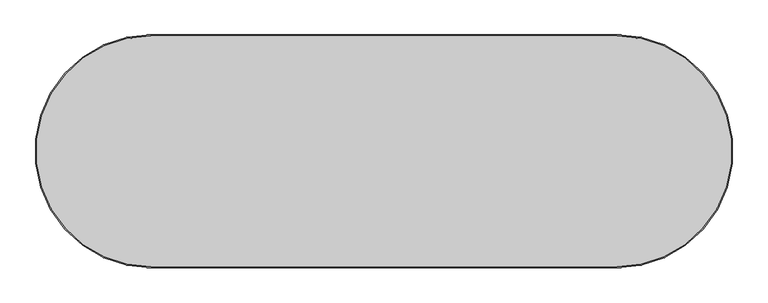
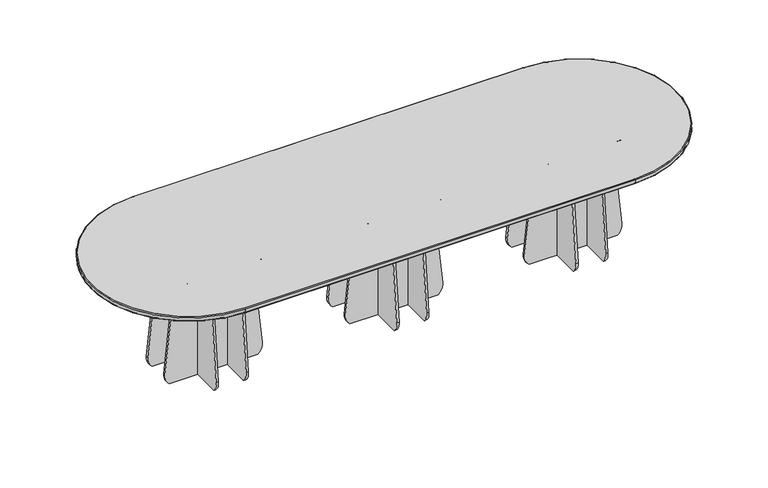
"""IFC4 building model written with IfcOpenShell, lengths in millimetres: furniture geometry, Lundbergs Möbler - Funghi Ovale - Table - Oval - 360x120 - H73 : Lundbergs Möbler - Funghi Ovale - Table - Oval - 360x120 - H73."""

from ifc_helpers import new_model, si_unit, point, frame, frame_2d, origin, place, context, project, spatial, polyline, circle_curve, ellipse_curve, trimmed, segment, composite_curve, outline, extrude, source, transform, mapped, element, save
from ifc_brep_helpers import plane_surface, cylinder_surface, revolved_surface, advanced_brep


def furniture_582ebe88(model_context):
    return source(origin(), model_context, "Body", "SolidModel", [
        advanced_brep(
        [(1200.0000092, 600.0000046, 705.000378), (1200.0000092, -600.0000046, 705.000378), (1200.0000092, -595.0000046, 700.000378), (1200.0000092, 595.0000046, 700.000378), (1200.0000092, 600.0000046, 725.0), (1200.0000092, -600.0000046, 725.0), (-1200.0000092, 595.0000046, 700.000378), (-1200.0000092, 600.0000046, 705.000378), (-1200.0000092, -595.0000046, 700.000378), (-1200.0000092, -600.0000046, 705.000378), (-1200.0000092, 600.0000046, 725.0), (-1200.0000092, -600.0000046, 725.0), (1200.0000092, 595.0000046, 730.0), (-1200.0000092, 595.0000046, 730.0), (-1200.0000092, -595.0000046, 730.0), (1200.0000092, -595.0000046, 730.0)],
        [
            (0, 1, circle_curve(frame((1200.0000092, 0.0, 705.000378), z_axis=(0.0, 0.0, -1.0), x_axis=(0.0, -1.0, 0.0)), 600.0000046)),
            (1, 2, circle_curve(frame((1200.0000092, -595.0000046, 705.000378), z_axis=(1.0, 0.0, 0.0), x_axis=(0.0, 1.0, 0.0)), 5.0)),
            (2, 3, circle_curve(frame((1200.0000092, 0.0, 700.000378), z_axis=(0.0, 0.0, 1.0), x_axis=(0.0, -1.0, 0.0)), 595.0000046)),
            (3, 0, circle_curve(frame((1200.0000092, 595.0000046, 705.000378), z_axis=(1.0, 0.0, 0.0), x_axis=(0.0, -1.0, 0.0)), 5.0)),
            (0, 4),
            (4, 5, circle_curve(frame((1200.0000092, 0.0, 725.0), z_axis=(0.0, 0.0, -1.0), x_axis=(0.0, -1.0, 0.0)), 600.0000046)),
            (5, 1),
            (3, 6),
            (6, 7, circle_curve(frame((-1200.0000092, 595.0000046, 705.000378), z_axis=(1.0, 0.0, 0.0), x_axis=(0.0, -1.0, 0.0)), 5.0)),
            (7, 0),
            (6, 8, circle_curve(frame((-1200.0000092, 0.0, 700.000378), z_axis=(0.0, 0.0, 1.0), x_axis=(0.0, 1.0, 0.0)), 595.0000046)),
            (8, 9, circle_curve(frame((-1200.0000092, -595.0000046, 705.000378), z_axis=(-1.0, 0.0, 0.0), x_axis=(0.0, 1.0, 0.0)), 5.0)),
            (9, 7, circle_curve(frame((-1200.0000092, 0.0, 705.000378), z_axis=(0.0, 0.0, -1.0), x_axis=(0.0, 1.0, 0.0)), 600.0000046)),
            (10, 7),
            (9, 11),
            (11, 10, circle_curve(frame((-1200.0000092, 0.0, 725.0), z_axis=(0.0, 0.0, -1.0), x_axis=(0.0, 1.0, 0.0)), 600.0000046)),
            (12, 13),
            (13, 14, circle_curve(frame((-1200.0000092, 0.0, 730.0), z_axis=(0.0, 0.0, 1.0), x_axis=(0.0, 1.0, 0.0)), 595.0000046)),
            (14, 15),
            (15, 12, circle_curve(frame((1200.0000092, 0.0, 730.0), z_axis=(0.0, 0.0, 1.0), x_axis=(0.0, -1.0, 0.0)), 595.0000046)),
            (2, 8),
            (1, 9),
            (10, 4),
            (5, 11),
            (4, 12, circle_curve(frame((1200.0000092, 595.0000046, 725.0), z_axis=(1.0, 0.0, 0.0), x_axis=(0.0, -1.0, 0.0)), 5.0)),
            (15, 5, circle_curve(frame((1200.0000092, -595.0000046, 725.0), z_axis=(1.0, 0.0, 0.0), x_axis=(0.0, 1.0, 0.0)), 5.0)),
            (10, 13, circle_curve(frame((-1200.0000092, 595.0000046, 725.0), z_axis=(1.0, 0.0, 0.0), x_axis=(0.0, -1.0, 0.0)), 5.0)),
            (11, 14, circle_curve(frame((-1200.0000092, -595.0000046, 725.0), z_axis=(-1.0, 0.0, 0.0), x_axis=(0.0, 1.0, 0.0)), 5.0)),
        ],
        [
            revolved_surface(trimmed(ellipse_curve(frame((1200.0000092, -595.0000046, 705.000378), z_axis=(-1.0, 0.0, 0.0), x_axis=(0.0, 1.0, 0.0)), 5.0, 5.0), [point((1200.0000092, -595.0000046, 700.000378))], [point((1200.0000092, -600.0000046, 705.000378))], True, "CARTESIAN"), (1200.0000092, 0.0, 0.0), (0.0, 0.0, 1.0)),
            cylinder_surface(frame((1200.0000092, 0.0, 0.0), z_axis=(0.0, 0.0, 1.0), x_axis=(0.0, -1.0, 0.0)), 600.0000046),
            cylinder_surface(frame((1200.0000092, 595.0000046, 705.000378), z_axis=(1.0, 0.0, 0.0), x_axis=(0.0, -1.0, 0.0)), 5.0),
            revolved_surface(trimmed(ellipse_curve(frame((-1200.0000092, 595.0000046, 705.000378), z_axis=(1.0, 0.0, 0.0), x_axis=(0.0, -1.0, 0.0)), 5.0, 5.0), [point((-1200.0000092, 595.0000046, 700.000378))], [point((-1200.0000092, 600.0000046, 705.000378))], True, "CARTESIAN"), (-1200.0000092, 0.0, 0.0), (0.0, 0.0, 1.0)),
            cylinder_surface(frame((-1200.0000092, 0.0, 0.0), z_axis=(0.0, 0.0, 1.0), x_axis=(0.0, 1.0, 0.0)), 600.0000046),
            plane_surface(frame((-1200.0000092, -595.0000046, 730.0), z_axis=(0.0, 0.0, 1.0), x_axis=(1.0, 0.0, 0.0))),
            plane_surface(frame((-1200.0000092, -547.4635133, 700.000378), z_axis=(0.0, 0.0, -1.0), x_axis=(1.0, 0.0, 0.0))),
            cylinder_surface(frame((-1200.0000092, -595.0000046, 705.000378), z_axis=(-1.0, 0.0, 0.0), x_axis=(0.0, 1.0, 0.0)), 5.0),
            plane_surface(frame((1200.0000092, 600.0000046, 705.000378), z_axis=(0.0, 1.0, 0.0), x_axis=(-1.0, 0.0, 0.0))),
            plane_surface(frame((-1200.0000092, -600.0000046, 705.000378), z_axis=(0.0, -1.0, 0.0), x_axis=(1.0, 0.0, 0.0))),
            revolved_surface(trimmed(ellipse_curve(frame((1200.0000092, -595.0000046, 725.0), z_axis=(-1.0, 0.0, 0.0), x_axis=(0.0, 1.0, 0.0)), 5.0, 5.0), [point((1200.0000092, -600.0000046, 725.0))], [point((1200.0000092, -595.0000046, 730.0))], True, "CARTESIAN"), (1200.0000092, 0.0, 0.0), (0.0, 0.0, 1.0)),
            cylinder_surface(frame((1200.0000092, 595.0000046, 725.0), z_axis=(1.0, 0.0, 0.0), x_axis=(0.0, -1.0, 0.0)), 5.0),
            revolved_surface(trimmed(ellipse_curve(frame((-1200.0000092, 595.0000046, 725.0), z_axis=(1.0, 0.0, 0.0), x_axis=(0.0, -1.0, 0.0)), 5.0, 5.0), [point((-1200.0000092, 600.0000046, 725.0))], [point((-1200.0000092, 595.0000046, 730.0))], True, "CARTESIAN"), (-1200.0000092, 0.0, 0.0), (0.0, 0.0, 1.0)),
            cylinder_surface(frame((-1200.0000092, -595.0000046, 725.0), z_axis=(-1.0, 0.0, 0.0), x_axis=(0.0, 1.0, 0.0)), 5.0),
        ],
        [
            (0, [[1, 2, 3, 4]]),
            (1, [[-1, 5, 6, 7]]),
            (2, [[-4, 8, 9, 10]]),
            (3, [[-9, 11, 12, 13]]),
            (4, [[14, -13, 15, 16]]),
            (5, [[17, 18, 19, 20]]),
            (6, [[-3, 21, -11, -8]]),
            (7, [[-2, 22, -12, -21]]),
            (8, [[-5, -10, -14, 23]]),
            (9, [[-7, 24, -15, -22]]),
            (10, [[-6, 25, -20, 26]]),
            (11, [[-23, 27, -17, -25]]),
            (12, [[-16, 28, -18, -27]]),
            (13, [[-19, -28, -24, -26]]),
        ],
    ),
        extrude(outline(composite_curve([segment(trimmed(circle_curve(frame_2d((-224.3740969, 59.2172826)), 75.5612131), [point((-271.3082035, 0.0))], [point((-299.5202714, 67.1260989))], False, "CARTESIAN"), True, "CONTINUOUS"), segment(polyline([(-299.5202714, 67.1260989), (-232.9129365, 700.000378), (232.9129365, 700.000378), (299.5202714, 67.1260989)]), True, "CONTINUOUS"), segment(trimmed(circle_curve(frame_2d((224.3740969, 59.2172826)), 75.5612131), [point((299.5202714, 67.1260989))], [point((271.3082035, 0.0))], False, "CARTESIAN"), True, "CONTINUOUS"), segment(polyline([(271.3082035, 0.0), (-271.3082035, 0.0)]), True, "CONTINUOUS")], self_intersect=False)), frame((89.4259853, 0.0, 0.0), z_axis=(1.0, 0.0, 0.0), x_axis=(0.0, 1.0, 0.0)), (0.0, 0.0, 1.0), 13.4999997),
        extrude(outline(composite_curve([segment(trimmed(circle_curve(frame_2d((59.2172834, 228.8001268)), 75.5611848), [point((0.0, 275.7341869))], [point((67.1260989, 303.946273))], False, "CARTESIAN"), True, "CONTINUOUS"), segment(polyline([(67.1260989, 303.946273), (700.000378, 237.3389197), (700.000378, -228.4869152), (67.1260989, -295.0943424)]), True, "CONTINUOUS"), segment(trimmed(circle_curve(frame_2d((59.2172764, -219.9482129)), 75.561169), [point((67.1260989, -295.0943424))], [point((0.0, -266.8822563))], False, "CARTESIAN"), True, "CONTINUOUS"), segment(polyline([(0.0, -266.8822563), (0.0, 275.7341869)]), True, "CONTINUOUS")], self_intersect=False)), frame((0.0, 83.9999963, 0.0), z_axis=(0.0, 1.0, 0.0), x_axis=(0.0, 0.0, 1.0)), (0.0, 0.0, 1.0), 13.4999997),
        extrude(outline(composite_curve([segment(trimmed(circle_curve(frame_2d((59.2172834, 228.8001268)), 75.5611848), [point((0.0, 275.7341869))], [point((67.1260989, 303.946273))], False, "CARTESIAN"), True, "CONTINUOUS"), segment(polyline([(67.1260989, 303.946273), (700.000378, 237.3389197), (700.000378, -228.4869152), (67.1260989, -295.0943424)]), True, "CONTINUOUS"), segment(trimmed(circle_curve(frame_2d((59.2172764, -219.9482129)), 75.561169), [point((67.1260989, -295.0943424))], [point((0.0, -266.8822563))], False, "CARTESIAN"), True, "CONTINUOUS"), segment(polyline([(0.0, -266.8822563), (0.0, 275.7341869)]), True, "CONTINUOUS")], self_intersect=False)), frame((0.0, -99.500004, 0.0), z_axis=(0.0, 1.0, 0.0), x_axis=(0.0, 0.0, 1.0)), (0.0, 0.0, 1.0), 13.4999997),
        extrude(outline(composite_curve([segment(trimmed(circle_curve(frame_2d((-224.3740969, 59.2172826)), 75.5612131), [point((-271.3082035, 0.0))], [point((-299.5202714, 67.1260989))], False, "CARTESIAN"), True, "CONTINUOUS"), segment(polyline([(-299.5202714, 67.1260989), (-232.9129365, 700.000378), (232.9129365, 700.000378), (299.5202714, 67.1260989)]), True, "CONTINUOUS"), segment(trimmed(circle_curve(frame_2d((224.3740969, 59.2172826)), 75.5612131), [point((299.5202714, 67.1260989))], [point((271.3082035, 0.0))], False, "CARTESIAN"), True, "CONTINUOUS"), segment(polyline([(271.3082035, 0.0), (-271.3082035, 0.0)]), True, "CONTINUOUS")], self_intersect=False)), frame((-94.0740059, 0.0, 0.0), z_axis=(1.0, 0.0, 0.0), x_axis=(0.0, 1.0, 0.0)), (0.0, 0.0, 1.0), 13.4999997),
        extrude(outline(composite_curve([segment(trimmed(circle_curve(frame_2d((698.3873965, 196.2845895)), 8.5), [point((689.8873965, 196.2845895))], [point((698.3873965, 204.7845895))], False, "CARTESIAN"), True, "CONTINUOUS"), segment(polyline([(698.3873965, 204.7845895), (700.000378, 204.7845895), (700.000378, -204.7845895), (698.3873965, -204.7845895)]), True, "CONTINUOUS"), segment(trimmed(circle_curve(frame_2d((698.3873965, -196.2845895)), 8.5), [point((698.3873965, -204.7845895))], [point((689.8873965, -196.2845895))], False, "CARTESIAN"), True, "CONTINUOUS"), segment(polyline([(689.8873965, -196.2845895), (689.8873965, 196.2845895)]), True, "CONTINUOUS")], self_intersect=False)), frame((0.0, 212.8000015, 0.0), z_axis=(0.0, 1.0, 0.0), x_axis=(0.0, 0.0, 1.0)), (0.0, 0.0, 1.0), 19.9999965),
        extrude(outline(composite_curve([segment(trimmed(circle_curve(frame_2d((-196.2845895, 698.3873965)), 8.5), [point((-196.2845895, 689.8873965))], [point((-204.7845895, 698.3873965))], False, "CARTESIAN"), True, "CONTINUOUS"), segment(polyline([(-204.7845895, 698.3873965), (-204.7845895, 700.000378), (204.7845895, 700.000378), (204.7845895, 698.3873965)]), True, "CONTINUOUS"), segment(trimmed(circle_curve(frame_2d((196.2845895, 698.3873965)), 8.5), [point((204.7845895, 698.3873965))], [point((196.2845895, 689.8873965))], False, "CARTESIAN"), True, "CONTINUOUS"), segment(polyline([(196.2845895, 689.8873965), (-196.2845895, 689.8873965)]), True, "CONTINUOUS")], self_intersect=False)), frame((218.3259905, 0.0, 0.0), z_axis=(1.0, 0.0, 0.0), x_axis=(0.0, 1.0, 0.0)), (0.0, 0.0, 1.0), 20.0000147),
        extrude(outline(composite_curve([segment(trimmed(circle_curve(frame_2d((-196.2845895, 698.3873965)), 8.5), [point((-196.2845895, 689.8873965))], [point((-204.7845895, 698.3873965))], False, "CARTESIAN"), True, "CONTINUOUS"), segment(polyline([(-204.7845895, 698.3873965), (-204.7845895, 700.000378), (204.7845895, 700.000378), (204.7845895, 698.3873965)]), True, "CONTINUOUS"), segment(trimmed(circle_curve(frame_2d((196.2845895, 698.3873965)), 8.5), [point((204.7845895, 698.3873965))], [point((196.2845895, 689.8873965))], False, "CARTESIAN"), True, "CONTINUOUS"), segment(polyline([(196.2845895, 689.8873965), (-196.2845895, 689.8873965)]), True, "CONTINUOUS")], self_intersect=False)), frame((-229.549942, 0.0, 0.0), z_axis=(1.0, 0.0, 0.0), x_axis=(0.0, 1.0, 0.0)), (0.0, 0.0, 1.0), 20.2759426),
        extrude(outline(composite_curve([segment(trimmed(circle_curve(frame_2d((698.3873965, 196.2845895)), 8.5), [point((689.8873965, 196.2845895))], [point((698.3873965, 204.7845895))], False, "CARTESIAN"), True, "CONTINUOUS"), segment(polyline([(698.3873965, 204.7845895), (700.000378, 204.7845895), (700.000378, -204.7845895), (698.3873965, -204.7845895)]), True, "CONTINUOUS"), segment(trimmed(circle_curve(frame_2d((698.3873965, -196.2845895)), 8.5), [point((698.3873965, -204.7845895))], [point((689.8873965, -196.2845895))], False, "CARTESIAN"), True, "CONTINUOUS"), segment(polyline([(689.8873965, -196.2845895), (689.8873965, 196.2845895)]), True, "CONTINUOUS")], self_intersect=False)), frame((0.0, -234.8000031, 0.0), z_axis=(0.0, 1.0, 0.0), x_axis=(0.0, 0.0, 1.0)), (0.0, 0.0, 1.0), 19.9999965),
        extrude(outline(composite_curve([segment(trimmed(circle_curve(frame_2d((-224.3740969, 59.2172826)), 75.5612131), [point((-271.3082035, 0.0))], [point((-299.5202714, 67.1260989))], False, "CARTESIAN"), True, "CONTINUOUS"), segment(polyline([(-299.5202714, 67.1260989), (-232.9129365, 700.000378), (232.9129365, 700.000378), (299.5202714, 67.1260989)]), True, "CONTINUOUS"), segment(trimmed(circle_curve(frame_2d((224.3740969, 59.2172826)), 75.5612131), [point((299.5202714, 67.1260989))], [point((271.3082035, 0.0))], False, "CARTESIAN"), True, "CONTINUOUS"), segment(polyline([(271.3082035, 0.0), (-271.3082035, 0.0)]), True, "CONTINUOUS")], self_intersect=False)), frame((1007.1000103, 0.0, 0.0), z_axis=(1.0, 0.0, 0.0), x_axis=(0.0, 1.0, 0.0)), (0.0, 0.0, 1.0), 13.4999997),
        extrude(outline(composite_curve([segment(polyline([(0.0, 834.2918083), (0.0, 1376.9082516)]), True, "CONTINUOUS"), segment(trimmed(circle_curve(frame_2d((59.2172764, 1329.9742082)), 75.561169), [point((0.0, 1376.9082516))], [point((67.1260989, 1405.1203377))], False, "CARTESIAN"), True, "CONTINUOUS"), segment(polyline([(67.1260989, 1405.1203377), (700.000378, 1338.5129104), (700.000378, 872.6870756), (67.1260989, 806.0797222)]), True, "CONTINUOUS"), segment(trimmed(circle_curve(frame_2d((59.2172834, 881.2258684)), 75.5611848), [point((67.1260989, 806.0797222))], [point((0.0, 834.2918083))], False, "CARTESIAN"), True, "CONTINUOUS")], self_intersect=False)), frame((0.0, 83.9999963, 0.0), z_axis=(0.0, 1.0, 0.0), x_axis=(0.0, 0.0, 1.0)), (0.0, 0.0, 1.0), 13.4999997),
        extrude(outline(composite_curve([segment(polyline([(0.0, 834.2918083), (0.0, 1376.9082516)]), True, "CONTINUOUS"), segment(trimmed(circle_curve(frame_2d((59.2172764, 1329.9742082)), 75.561169), [point((0.0, 1376.9082516))], [point((67.1260989, 1405.1203377))], False, "CARTESIAN"), True, "CONTINUOUS"), segment(polyline([(67.1260989, 1405.1203377), (700.000378, 1338.5129104), (700.000378, 872.6870756), (67.1260989, 806.0797222)]), True, "CONTINUOUS"), segment(trimmed(circle_curve(frame_2d((59.2172834, 881.2258684)), 75.5611848), [point((67.1260989, 806.0797222))], [point((0.0, 834.2918083))], False, "CARTESIAN"), True, "CONTINUOUS")], self_intersect=False)), frame((0.0, -99.500004, 0.0), z_axis=(0.0, 1.0, 0.0), x_axis=(0.0, 0.0, 1.0)), (0.0, 0.0, 1.0), 13.4999997),
        extrude(outline(composite_curve([segment(trimmed(circle_curve(frame_2d((-224.3740969, 59.2172826)), 75.5612131), [point((-271.3082035, 0.0))], [point((-299.5202714, 67.1260989))], False, "CARTESIAN"), True, "CONTINUOUS"), segment(polyline([(-299.5202714, 67.1260989), (-232.9129365, 700.000378), (232.9129365, 700.000378), (299.5202714, 67.1260989)]), True, "CONTINUOUS"), segment(trimmed(circle_curve(frame_2d((224.3740969, 59.2172826)), 75.5612131), [point((299.5202714, 67.1260989))], [point((271.3082035, 0.0))], False, "CARTESIAN"), True, "CONTINUOUS"), segment(polyline([(271.3082035, 0.0), (-271.3082035, 0.0)]), True, "CONTINUOUS")], self_intersect=False)), frame((1190.6000015, 0.0, 0.0), z_axis=(1.0, 0.0, 0.0), x_axis=(0.0, 1.0, 0.0)), (0.0, 0.0, 1.0), 13.4999997),
        extrude(outline(composite_curve([segment(polyline([(689.8873965, 913.7414057), (689.8873965, 1306.3105848)]), True, "CONTINUOUS"), segment(trimmed(circle_curve(frame_2d((698.3873965, 1306.3105848)), 8.5), [point((689.8873965, 1306.3105848))], [point((698.3873965, 1314.8105848))], False, "CARTESIAN"), True, "CONTINUOUS"), segment(polyline([(698.3873965, 1314.8105848), (700.000378, 1314.8105848), (700.000378, 905.2414057), (698.3873965, 905.2414057)]), True, "CONTINUOUS"), segment(trimmed(circle_curve(frame_2d((698.3873965, 913.7414057)), 8.5), [point((698.3873965, 905.2414057))], [point((689.8873965, 913.7414057))], False, "CARTESIAN"), True, "CONTINUOUS")], self_intersect=False)), frame((0.0, 212.8000015, 0.0), z_axis=(0.0, 1.0, 0.0), x_axis=(0.0, 0.0, 1.0)), (0.0, 0.0, 1.0), 19.9999965),
        extrude(outline(composite_curve([segment(trimmed(circle_curve(frame_2d((-196.2845895, 698.3873965)), 8.5), [point((-196.2845895, 689.8873965))], [point((-204.7845895, 698.3873965))], False, "CARTESIAN"), True, "CONTINUOUS"), segment(polyline([(-204.7845895, 698.3873965), (-204.7845895, 700.000378), (204.7845895, 700.000378), (204.7845895, 698.3873965)]), True, "CONTINUOUS"), segment(trimmed(circle_curve(frame_2d((196.2845895, 698.3873965)), 8.5), [point((204.7845895, 698.3873965))], [point((196.2845895, 689.8873965))], False, "CARTESIAN"), True, "CONTINUOUS"), segment(polyline([(196.2845895, 689.8873965), (-196.2845895, 689.8873965)]), True, "CONTINUOUS")], self_intersect=False)), frame((871.6999901, 0.0, 0.0), z_axis=(1.0, 0.0, 0.0), x_axis=(0.0, 1.0, 0.0)), (0.0, 0.0, 1.0), 20.0000147),
        extrude(outline(composite_curve([segment(trimmed(circle_curve(frame_2d((-196.2845895, 698.3873965)), 8.5), [point((-196.2845895, 689.8873965))], [point((-204.7845895, 698.3873965))], False, "CARTESIAN"), True, "CONTINUOUS"), segment(polyline([(-204.7845895, 698.3873965), (-204.7845895, 700.000378), (204.7845895, 700.000378), (204.7845895, 698.3873965)]), True, "CONTINUOUS"), segment(trimmed(circle_curve(frame_2d((196.2845895, 698.3873965)), 8.5), [point((204.7845895, 698.3873965))], [point((196.2845895, 689.8873965))], False, "CARTESIAN"), True, "CONTINUOUS"), segment(polyline([(196.2845895, 689.8873965), (-196.2845895, 689.8873965)]), True, "CONTINUOUS")], self_intersect=False)), frame((1319.2999947, 0.0, 0.0), z_axis=(1.0, 0.0, 0.0), x_axis=(0.0, 1.0, 0.0)), (0.0, 0.0, 1.0), 20.2759426),
        extrude(outline(composite_curve([segment(polyline([(689.8873965, 913.7414057), (689.8873965, 1306.3105848)]), True, "CONTINUOUS"), segment(trimmed(circle_curve(frame_2d((698.3873965, 1306.3105848)), 8.5), [point((689.8873965, 1306.3105848))], [point((698.3873965, 1314.8105848))], False, "CARTESIAN"), True, "CONTINUOUS"), segment(polyline([(698.3873965, 1314.8105848), (700.000378, 1314.8105848), (700.000378, 905.2414057), (698.3873965, 905.2414057)]), True, "CONTINUOUS"), segment(trimmed(circle_curve(frame_2d((698.3873965, 913.7414057)), 8.5), [point((698.3873965, 905.2414057))], [point((689.8873965, 913.7414057))], False, "CARTESIAN"), True, "CONTINUOUS")], self_intersect=False)), frame((0.0, -234.8000031, 0.0), z_axis=(0.0, 1.0, 0.0), x_axis=(0.0, 0.0, 1.0)), (0.0, 0.0, 1.0), 19.9999965),
        extrude(outline(composite_curve([segment(trimmed(circle_curve(frame_2d((-224.3740969, 59.2172826)), 75.5612131), [point((-271.3082035, 0.0))], [point((-299.5202714, 67.1260989))], False, "CARTESIAN"), True, "CONTINUOUS"), segment(polyline([(-299.5202714, 67.1260989), (-232.9129365, 700.000378), (232.9129365, 700.000378), (299.5202714, 67.1260989)]), True, "CONTINUOUS"), segment(trimmed(circle_curve(frame_2d((224.3740969, 59.2172826)), 75.5612131), [point((299.5202714, 67.1260989))], [point((271.3082035, 0.0))], False, "CARTESIAN"), True, "CONTINUOUS"), segment(polyline([(271.3082035, 0.0), (-271.3082035, 0.0)]), True, "CONTINUOUS")], self_intersect=False)), frame((-1020.60001, 0.0, 0.0), z_axis=(1.0, 0.0, 0.0), x_axis=(0.0, 1.0, 0.0)), (0.0, 0.0, 1.0), 13.4999997),
        extrude(outline(composite_curve([segment(trimmed(circle_curve(frame_2d((59.2172834, -881.2258684)), 75.5611848), [point((0.0, -834.2918083))], [point((67.1260989, -806.0797222))], False, "CARTESIAN"), True, "CONTINUOUS"), segment(polyline([(67.1260989, -806.0797222), (700.000378, -872.6870756), (700.000378, -1338.5129104), (67.1260989, -1405.1203377)]), True, "CONTINUOUS"), segment(trimmed(circle_curve(frame_2d((59.2172764, -1329.9742082)), 75.561169), [point((67.1260989, -1405.1203377))], [point((0.0, -1376.9082516))], False, "CARTESIAN"), True, "CONTINUOUS"), segment(polyline([(0.0, -1376.9082516), (0.0, -834.2918083)]), True, "CONTINUOUS")], self_intersect=False)), frame((0.0, 83.9999963, 0.0), z_axis=(0.0, 1.0, 0.0), x_axis=(0.0, 0.0, 1.0)), (0.0, 0.0, 1.0), 13.4999997),
        extrude(outline(composite_curve([segment(trimmed(circle_curve(frame_2d((59.2172834, -881.2258684)), 75.5611848), [point((0.0, -834.2918083))], [point((67.1260989, -806.0797222))], False, "CARTESIAN"), True, "CONTINUOUS"), segment(polyline([(67.1260989, -806.0797222), (700.000378, -872.6870756), (700.000378, -1338.5129104), (67.1260989, -1405.1203377)]), True, "CONTINUOUS"), segment(trimmed(circle_curve(frame_2d((59.2172764, -1329.9742082)), 75.561169), [point((67.1260989, -1405.1203377))], [point((0.0, -1376.9082516))], False, "CARTESIAN"), True, "CONTINUOUS"), segment(polyline([(0.0, -1376.9082516), (0.0, -834.2918083)]), True, "CONTINUOUS")], self_intersect=False)), frame((0.0, -99.500004, 0.0), z_axis=(0.0, 1.0, 0.0), x_axis=(0.0, 0.0, 1.0)), (0.0, 0.0, 1.0), 13.4999997),
        extrude(outline(composite_curve([segment(trimmed(circle_curve(frame_2d((-224.3740969, 59.2172826)), 75.5612131), [point((-271.3082035, 0.0))], [point((-299.5202714, 67.1260989))], False, "CARTESIAN"), True, "CONTINUOUS"), segment(polyline([(-299.5202714, 67.1260989), (-232.9129365, 700.000378), (232.9129365, 700.000378), (299.5202714, 67.1260989)]), True, "CONTINUOUS"), segment(trimmed(circle_curve(frame_2d((224.3740969, 59.2172826)), 75.5612131), [point((299.5202714, 67.1260989))], [point((271.3082035, 0.0))], False, "CARTESIAN"), True, "CONTINUOUS"), segment(polyline([(271.3082035, 0.0), (-271.3082035, 0.0)]), True, "CONTINUOUS")], self_intersect=False)), frame((-1204.1000012, 0.0, 0.0), z_axis=(1.0, 0.0, 0.0), x_axis=(0.0, 1.0, 0.0)), (0.0, 0.0, 1.0), 13.4999997),
        extrude(outline(composite_curve([segment(trimmed(circle_curve(frame_2d((698.3873965, -913.7414057)), 8.5), [point((689.8873965, -913.7414057))], [point((698.3873965, -905.2414057))], False, "CARTESIAN"), True, "CONTINUOUS"), segment(polyline([(698.3873965, -905.2414057), (700.000378, -905.2414057), (700.000378, -1314.8105848), (698.3873965, -1314.8105848)]), True, "CONTINUOUS"), segment(trimmed(circle_curve(frame_2d((698.3873965, -1306.3105848)), 8.5), [point((698.3873965, -1314.8105848))], [point((689.8873965, -1306.3105848))], False, "CARTESIAN"), True, "CONTINUOUS"), segment(polyline([(689.8873965, -1306.3105848), (689.8873965, -913.7414057)]), True, "CONTINUOUS")], self_intersect=False)), frame((0.0, 212.8000015, 0.0), z_axis=(0.0, 1.0, 0.0), x_axis=(0.0, 0.0, 1.0)), (0.0, 0.0, 1.0), 19.9999965),
        extrude(outline(composite_curve([segment(trimmed(circle_curve(frame_2d((-196.2845895, 698.3873965)), 8.5), [point((-196.2845895, 689.8873965))], [point((-204.7845895, 698.3873965))], False, "CARTESIAN"), True, "CONTINUOUS"), segment(polyline([(-204.7845895, 698.3873965), (-204.7845895, 700.000378), (204.7845895, 700.000378), (204.7845895, 698.3873965)]), True, "CONTINUOUS"), segment(trimmed(circle_curve(frame_2d((196.2845895, 698.3873965)), 8.5), [point((204.7845895, 698.3873965))], [point((196.2845895, 689.8873965))], False, "CARTESIAN"), True, "CONTINUOUS"), segment(polyline([(196.2845895, 689.8873965), (-196.2845895, 689.8873965)]), True, "CONTINUOUS")], self_intersect=False)), frame((-891.7000048, 0.0, 0.0), z_axis=(1.0, 0.0, 0.0), x_axis=(0.0, 1.0, 0.0)), (0.0, 0.0, 1.0), 20.0000147),
        extrude(outline(composite_curve([segment(trimmed(circle_curve(frame_2d((-196.2845895, 698.3873965)), 8.5), [point((-196.2845895, 689.8873965))], [point((-204.7845895, 698.3873965))], False, "CARTESIAN"), True, "CONTINUOUS"), segment(polyline([(-204.7845895, 698.3873965), (-204.7845895, 700.000378), (204.7845895, 700.000378), (204.7845895, 698.3873965)]), True, "CONTINUOUS"), segment(trimmed(circle_curve(frame_2d((196.2845895, 698.3873965)), 8.5), [point((204.7845895, 698.3873965))], [point((196.2845895, 689.8873965))], False, "CARTESIAN"), True, "CONTINUOUS"), segment(polyline([(196.2845895, 689.8873965), (-196.2845895, 689.8873965)]), True, "CONTINUOUS")], self_intersect=False)), frame((-1339.5759373, 0.0, 0.0), z_axis=(1.0, 0.0, 0.0), x_axis=(0.0, 1.0, 0.0)), (0.0, 0.0, 1.0), 20.2759426),
        extrude(outline(composite_curve([segment(trimmed(circle_curve(frame_2d((698.3873965, -913.7414057)), 8.5), [point((689.8873965, -913.7414057))], [point((698.3873965, -905.2414057))], False, "CARTESIAN"), True, "CONTINUOUS"), segment(polyline([(698.3873965, -905.2414057), (700.000378, -905.2414057), (700.000378, -1314.8105848), (698.3873965, -1314.8105848)]), True, "CONTINUOUS"), segment(trimmed(circle_curve(frame_2d((698.3873965, -1306.3105848)), 8.5), [point((698.3873965, -1314.8105848))], [point((689.8873965, -1306.3105848))], False, "CARTESIAN"), True, "CONTINUOUS"), segment(polyline([(689.8873965, -1306.3105848), (689.8873965, -913.7414057)]), True, "CONTINUOUS")], self_intersect=False)), frame((0.0, -234.8000031, 0.0), z_axis=(0.0, 1.0, 0.0), x_axis=(0.0, 0.0, 1.0)), (0.0, 0.0, 1.0), 19.9999965),
    ])


if __name__ == "__main__":
    model = new_model("IFC4")
    model_context = context("Model", 3, world=origin())
    ifc_project = project(units=[si_unit("LENGTHUNIT", "METRE", prefix="MILLI")], contexts=[model_context])
    site = spatial("IfcSite", under=ifc_project)
    building = spatial("IfcBuilding", under=site)
    placement = place(None, origin())
    furniture_shape = furniture_582ebe88(model_context)
    element("IfcFurniture", 1, ObjectType="Lundbergs Möbler - Funghi Ovale - Table - Oval - 360x120 - H73 : Lundbergs Möbler - Funghi Ovale - Table - Oval - 360x120 - H73", at=placement, inside=building, context=model_context, shape_type="MappedRepresentation", body=[
        mapped(furniture_shape, transform((0.0, 0.0, 0.0), x_axis=(1.0, 0.0, 0.0), y_axis=(0.0, 1.0, 0.0), z_axis=(0.0, 0.0, 1.0))),
    ])
    save(model, "model.ifc")
